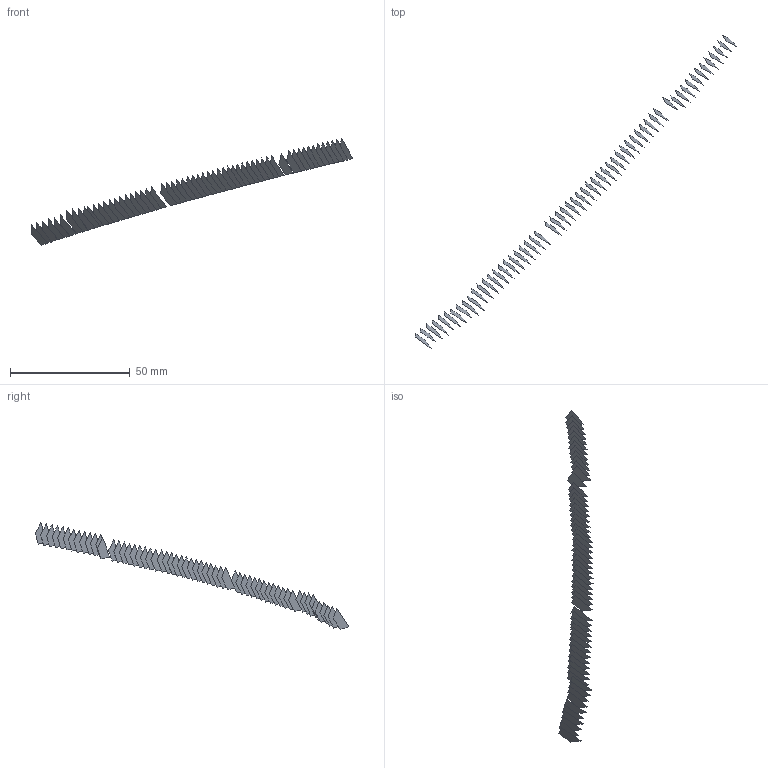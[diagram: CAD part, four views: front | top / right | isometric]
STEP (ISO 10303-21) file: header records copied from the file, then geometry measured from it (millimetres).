
FILE_DESCRIPTION(('FreeCAD Model'),'2;1');
FILE_NAME('Open CASCADE Shape Model','2022-05-22T07:50:32',('FreeCAD'),( 'FreeCAD'),'Open CASCADE STEP processor 7.5','FreeCAD','Unknown');
FILE_SCHEMA(('AUTOMOTIVE_DESIGN { 1 0 10303 214 1 1 1 1 }'));
Length unit declared in the file: millimetre
Products named in the file (60): Open CASCADE STEP translator 7.5 19; Open CASCADE STEP translator 7.5 19.1; Open CASCADE STEP translator 7.5 19.2; Open CASCADE STEP translator 7.5 19.3; Open CASCADE STEP translator 7.5 19.4; Open CASCADE STEP translator 7.5 19.5; Open CASCADE STEP translator 7.5 19.6; Open CASCADE STEP translator 7.5 19.7; Open CASCADE STEP translator 7.5 19.8; Open CASCADE STEP translator 7.5 19.9; Open CASCADE STEP translator 7.5 19.10; Open CASCADE STEP translator 7.5 19.11; Open CASCADE STEP translator 7.5 19.12; Open CASCADE STEP translator 7.5 19.13; Open CASCADE STEP translator 7.5 19.14; Open CASCADE STEP translator 7.5 19.15; Open CASCADE STEP translator 7.5 19.16; Open CASCADE STEP translator 7.5 19.17; Open CASCADE STEP translator 7.5 19.18; Open CASCADE STEP translator 7.5 19.19; Open CASCADE STEP translator 7.5 19.20; Open CASCADE STEP translator 7.5 19.21; Open CASCADE STEP translator 7.5 19.22; Open CASCADE STEP translator 7.5 19.23; Open CASCADE STEP translator 7.5 19.24; Open CASCADE STEP translator 7.5 19.25; Open CASCADE STEP translator 7.5 19.26; Open CASCADE STEP translator 7.5 19.27; Open CASCADE STEP translator 7.5 19.28; Open CASCADE STEP translator 7.5 19.29; Open CASCADE STEP translator 7.5 19.30; Open CASCADE STEP translator 7.5 19.31; Open CASCADE STEP translator 7.5 19.32; Open CASCADE STEP translator 7.5 19.33; Open CASCADE STEP translator 7.5 19.34; Open CASCADE STEP translator 7.5 19.35; Open CASCADE STEP translator 7.5 19.36; Open CASCADE STEP translator 7.5 19.37; Open CASCADE STEP translator 7.5 19.38; Open CASCADE STEP translator 7.5 19.39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
Assembly tree (59 placements, depth 2):
  Open CASCADE STEP translator 7.5 19
    Open CASCADE STEP translator 7.5 19.1
    Open CASCADE STEP translator 7.5 19.2
    Open CASCADE STEP translator 7.5 19.3
    Open CASCADE STEP translator 7.5 19.4
    Open CASCADE STEP translator 7.5 19.5
    Open CASCADE STEP translator 7.5 19.6
    Open CASCADE STEP translator 7.5 19.7
    Open CASCADE STEP translator 7.5 19.8
    Open CASCADE STEP translator 7.5 19.9
    Open CASCADE STEP translator 7.5 19.10
    Open CASCADE STEP translator 7.5 19.11
    Open CASCADE STEP translator 7.5 19.12
    Open CASCADE STEP translator 7.5 19.13
    Open CASCADE STEP translator 7.5 19.14
    Open CASCADE STEP translator 7.5 19.15
    Open CASCADE STEP translator 7.5 19.16
    Open CASCADE STEP translator 7.5 19.17
    Open CASCADE STEP translator 7.5 19.18
    Open CASCADE STEP translator 7.5 19.19
    Open CASCADE STEP translator 7.5 19.20
    Open CASCADE STEP translator 7.5 19.21
    Open CASCADE STEP translator 7.5 19.22
    Open CASCADE STEP translator 7.5 19.23
    Open CASCADE STEP translator 7.5 19.24
    Open CASCADE STEP translator 7.5 19.25
    Open CASCADE STEP translator 7.5 19.26
    Open CASCADE STEP translator 7.5 19.27
    Open CASCADE STEP translator 7.5 19.28
    Open CASCADE STEP translator 7.5 19.29
    Open CASCADE STEP translator 7.5 19.30
    Open CASCADE STEP translator 7.5 19.31
    Open CASCADE STEP translator 7.5 19.32
    Open CASCADE STEP translator 7.5 19.33
    Open CASCADE STEP translator 7.5 19.34
    Open CASCADE STEP translator 7.5 19.35
    Open CASCADE STEP translator 7.5 19.36
    Open CASCADE STEP translator 7.5 19.37
    Open CASCADE STEP translator 7.5 19.38
    Open CASCADE STEP translator 7.5 19.39
    Open CASCADE STEP translator 7.5 19.40
    Open CASCADE STEP translator 7.5 19.41
    Open CASCADE STEP translator 7.5 19.42
    Open CASCADE STEP translator 7.5 19.43
    Open CASCADE STEP translator 7.5 19.44
    Open CASCADE STEP translator 7.5 19.45
    Open CASCADE STEP translator 7.5 19.46
    Open CASCADE STEP translator 7.5 19.47
    Open CASCADE STEP translator 7.5 19.48
    Open CASCADE STEP translator 7.5 19.49
    Open CASCADE STEP translator 7.5 19.50
    Open CASCADE STEP translator 7.5 19.51
    Open CASCADE STEP translator 7.5 19.52
    Open CASCADE STEP translator 7.5 19.53
    Open CASCADE STEP translator 7.5 19.54
    Open CASCADE STEP translator 7.5 19.55
    Open CASCADE STEP translator 7.5 19.56
    Open CASCADE STEP translator 7.5 19.57
    Open CASCADE STEP translator 7.5 19.58
    Open CASCADE STEP translator 7.5 19.59
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Bounding box: 134.48 x 131.02 x 44.59 mm (x, y, z)
Surface area: 2055.2 mm2 (no closed solid volume)
Topology: 0 solids, 59 shells, 59 faces, 648 edges, 648 vertices
Faces by surface type: bspline 59
Entity records: 10092 total; most frequent: CARTESIAN_POINT 3536, B_SPLINE_CURVE_WITH_KNOTS 1296, ORIENTED_EDGE 648, EDGE_CURVE 648, VERTEX_POINT 648, SURFACE_CURVE 648, PCURVE 648, DEFINITIONAL_REPRESENTATION 648
